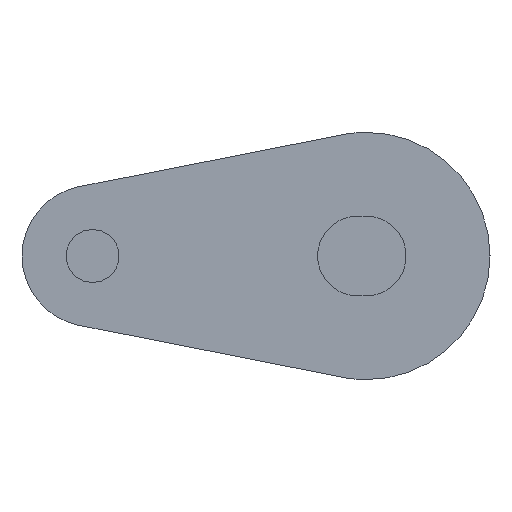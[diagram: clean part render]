
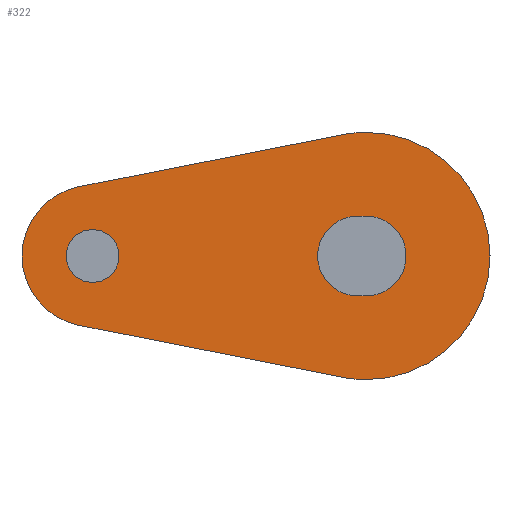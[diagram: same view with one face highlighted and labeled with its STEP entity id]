
A CAD part, left-side view. The second image highlights one B-rep face of the part: STEP entity #322.
In plain terms, the highlighted planar face has unit normal (-1, 0, 0).
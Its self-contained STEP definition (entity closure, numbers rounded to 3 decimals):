
#2 = DIRECTION ( 'NONE',  ( 0., -1., 0. ) ) ;
#11 = CARTESIAN_POINT ( 'NONE',  ( -704.5, 0.5, 2.26 ) ) ;
#19 = DIRECTION ( 'NONE',  ( 0., 0.981, 0.194 ) ) ;
#21 = DIRECTION ( 'NONE',  ( 1., 0., 0. ) ) ;
#38 = DIRECTION ( 'NONE',  ( 0., 0., -1. ) ) ;
#40 = DIRECTION ( 'NONE',  ( 1., 0., 0. ) ) ;
#41 = CARTESIAN_POINT ( 'NONE',  ( -704.5, 1.355, -6.868 ) ) ;
#49 = CARTESIAN_POINT ( 'NONE',  ( -704.5, 0., 0. ) ) ;
#50 = DIRECTION ( 'NONE',  ( 0., 0., -1. ) ) ;
#51 = DIRECTION ( 'NONE',  ( 1., 0., 0. ) ) ;
#55 = CARTESIAN_POINT ( 'NONE',  ( -704.5, 0., 0. ) ) ;
#65 = DIRECTION ( 'NONE',  ( 0., 0., -1. ) ) ;
#66 = DIRECTION ( 'NONE',  ( 1., 0., 0. ) ) ;
#68 = CARTESIAN_POINT ( 'NONE',  ( -704.5, 15.5, 0. ) ) ;
#71 = DIRECTION ( 'NONE',  ( 0., -0.981, 0.194 ) ) ;
#72 = CARTESIAN_POINT ( 'NONE',  ( -704.5, 16.274, 3.924 ) ) ;
#95 = DIRECTION ( 'NONE',  ( 0., 0., -1. ) ) ;
#96 = DIRECTION ( 'NONE',  ( 1., 0., 0. ) ) ;
#97 = CARTESIAN_POINT ( 'NONE',  ( -704.5, 0.5, 0. ) ) ;
#108 = VERTEX_POINT ( 'NONE', #228 ) ;
#111 = VERTEX_POINT ( 'NONE', #198 ) ;
#114 = VERTEX_POINT ( 'NONE', #139 ) ;
#118 = CARTESIAN_POINT ( 'NONE',  ( -704.5, 0., -2.26 ) ) ;
#129 = VERTEX_POINT ( 'NONE', #169 ) ;
#139 = CARTESIAN_POINT ( 'NONE',  ( -704.5, 0., -7. ) ) ;
#142 = VERTEX_POINT ( 'NONE', #206 ) ;
#145 = VERTEX_POINT ( 'NONE', #191 ) ;
#157 = VERTEX_POINT ( 'NONE', #207 ) ;
#158 = VERTEX_POINT ( 'NONE', #205 ) ;
#159 = VERTEX_POINT ( 'NONE', #199 ) ;
#160 = VERTEX_POINT ( 'NONE', #118 ) ;
#161 = VERTEX_POINT ( 'NONE', #200 ) ;
#162 = VERTEX_POINT ( 'NONE', #202 ) ;
#169 = CARTESIAN_POINT ( 'NONE',  ( -704.5, 15.5, -1.51 ) ) ;
#191 = CARTESIAN_POINT ( 'NONE',  ( -704.5, 0., 7. ) ) ;
#198 = CARTESIAN_POINT ( 'NONE',  ( -704.5, 1.355, -6.868 ) ) ;
#199 = CARTESIAN_POINT ( 'NONE',  ( -704.5, 0.5, 2.26 ) ) ;
#200 = CARTESIAN_POINT ( 'NONE',  ( -704.5, 16.274, 3.924 ) ) ;
#202 = CARTESIAN_POINT ( 'NONE',  ( -704.5, 16.274, -3.924 ) ) ;
#205 = CARTESIAN_POINT ( 'NONE',  ( -704.5, 0.5, -2.26 ) ) ;
#206 = CARTESIAN_POINT ( 'NONE',  ( -704.5, 15.5, 1.51 ) ) ;
#207 = CARTESIAN_POINT ( 'NONE',  ( -704.5, 1.355, 6.868 ) ) ;
#228 = CARTESIAN_POINT ( 'NONE',  ( -704.5, 0., 2.26 ) ) ;
#232 = DIRECTION ( 'NONE',  ( 1., 0., 0. ) ) ;
#233 = DIRECTION ( 'NONE',  ( 0., 0., -1. ) ) ;
#277 = DIRECTION ( 'NONE',  ( 1., 0., 0. ) ) ;
#278 = DIRECTION ( 'NONE',  ( 0., 0., -1. ) ) ;
#280 = DIRECTION ( 'NONE',  ( 1., 0., 0. ) ) ;
#281 = DIRECTION ( 'NONE',  ( 0., 0., -1. ) ) ;
#283 = CARTESIAN_POINT ( 'NONE',  ( -704.5, 0.5, -2.26 ) ) ;
#284 = CARTESIAN_POINT ( 'NONE',  ( -704.5, 15.5, 0. ) ) ;
#286 = CARTESIAN_POINT ( 'NONE',  ( -704.5, 0., 0. ) ) ;
#287 = DIRECTION ( 'NONE',  ( 0., 1., 0. ) ) ;
#295 = CARTESIAN_POINT ( 'NONE',  ( -704.5, 15.5, 0. ) ) ;
#322 = ADVANCED_FACE ( 'NONE', ( #621, #603, #601 ), #388, .T. ) ;
#380 = DIRECTION ( 'NONE',  ( 0., 0., -1. ) ) ;
#382 = DIRECTION ( 'NONE',  ( -1., 0., 0. ) ) ;
#383 = CARTESIAN_POINT ( 'NONE',  ( -704.5, 15.5, 0. ) ) ;
#388 = PLANE ( 'NONE',  #888 ) ;
#408 = CARTESIAN_POINT ( 'NONE',  ( -704.5, 0., 0. ) ) ;
#457 = CIRCLE ( 'NONE', #1021, 7. ) ;
#526 = CIRCLE ( 'NONE', #948, 1.51 ) ;
#528 = CIRCLE ( 'NONE', #978, 2.26 ) ;
#529 = VECTOR ( 'NONE', #2, 1000. ) ;
#538 = VECTOR ( 'NONE', #19, 1000. ) ;
#540 = CIRCLE ( 'NONE', #958, 7. ) ;
#541 = LINE ( 'NONE', #41, #538 ) ;
#547 = LINE ( 'NONE', #11, #529 ) ;
#550 = LINE ( 'NONE', #283, #561 ) ;
#561 = VECTOR ( 'NONE', #287, 1000. ) ;
#565 = CIRCLE ( 'NONE', #956, 4. ) ;
#566 = CIRCLE ( 'NONE', #982, 7. ) ;
#589 = CIRCLE ( 'NONE', #985, 1.51 ) ;
#601 = FACE_OUTER_BOUND ( 'NONE', #868, .T. ) ;
#603 = FACE_BOUND ( 'NONE', #777, .T. ) ;
#606 = LINE ( 'NONE', #72, #834 ) ;
#621 = FACE_BOUND ( 'NONE', #808, .T. ) ;
#763 = ORIENTED_EDGE ( 'NONE', *, *, #971, .F. ) ;
#764 = ORIENTED_EDGE ( 'NONE', *, *, #1004, .F. ) ;
#766 = ORIENTED_EDGE ( 'NONE', *, *, #964, .F. ) ;
#767 = ORIENTED_EDGE ( 'NONE', *, *, #929, .T. ) ;
#777 = EDGE_LOOP ( 'NONE', ( #799, #800 ) ) ;
#784 = ORIENTED_EDGE ( 'NONE', *, *, #977, .T. ) ;
#785 = ORIENTED_EDGE ( 'NONE', *, *, #952, .T. ) ;
#799 = ORIENTED_EDGE ( 'NONE', *, *, #947, .T. ) ;
#800 = ORIENTED_EDGE ( 'NONE', *, *, #1047, .T. ) ;
#801 = ORIENTED_EDGE ( 'NONE', *, *, #1005, .F. ) ;
#805 = ORIENTED_EDGE ( 'NONE', *, *, #913, .F. ) ;
#806 = ORIENTED_EDGE ( 'NONE', *, *, #942, .F. ) ;
#808 = EDGE_LOOP ( 'NONE', ( #767, #784, #785, #810 ) ) ;
#810 = ORIENTED_EDGE ( 'NONE', *, *, #998, .T. ) ;
#834 = VECTOR ( 'NONE', #71, 1000. ) ;
#846 = CIRCLE ( 'NONE', #916, 2.26 ) ;
#868 = EDGE_LOOP ( 'NONE', ( #801, #763, #764, #766, #805, #806 ) ) ;
#883 = DIRECTION ( 'NONE',  ( 0., 0., -1. ) ) ;
#888 = AXIS2_PLACEMENT_3D ( 'NONE', #383, #382, #380 ) ;
#913 = EDGE_CURVE ( 'NONE', #157, #145, #457, .T. ) ;
#916 = AXIS2_PLACEMENT_3D ( 'NONE', #97, #96, #95 ) ;
#929 = EDGE_CURVE ( 'NONE', #158, #159, #846, .T. ) ;
#942 = EDGE_CURVE ( 'NONE', #161, #157, #606, .T. ) ;
#947 = EDGE_CURVE ( 'NONE', #129, #142, #526, .T. ) ;
#948 = AXIS2_PLACEMENT_3D ( 'NONE', #68, #66, #65 ) ;
#952 = EDGE_CURVE ( 'NONE', #108, #160, #528, .T. ) ;
#956 = AXIS2_PLACEMENT_3D ( 'NONE', #284, #280, #281 ) ;
#958 = AXIS2_PLACEMENT_3D ( 'NONE', #49, #40, #38 ) ;
#964 = EDGE_CURVE ( 'NONE', #145, #114, #540, .T. ) ;
#971 = EDGE_CURVE ( 'NONE', #111, #162, #541, .T. ) ;
#977 = EDGE_CURVE ( 'NONE', #159, #108, #547, .T. ) ;
#978 = AXIS2_PLACEMENT_3D ( 'NONE', #55, #51, #50 ) ;
#982 = AXIS2_PLACEMENT_3D ( 'NONE', #286, #277, #278 ) ;
#985 = AXIS2_PLACEMENT_3D ( 'NONE', #295, #232, #233 ) ;
#998 = EDGE_CURVE ( 'NONE', #160, #158, #550, .T. ) ;
#1004 = EDGE_CURVE ( 'NONE', #114, #111, #566, .T. ) ;
#1005 = EDGE_CURVE ( 'NONE', #162, #161, #565, .T. ) ;
#1021 = AXIS2_PLACEMENT_3D ( 'NONE', #408, #21, #883 ) ;
#1047 = EDGE_CURVE ( 'NONE', #142, #129, #589, .T. ) ;
